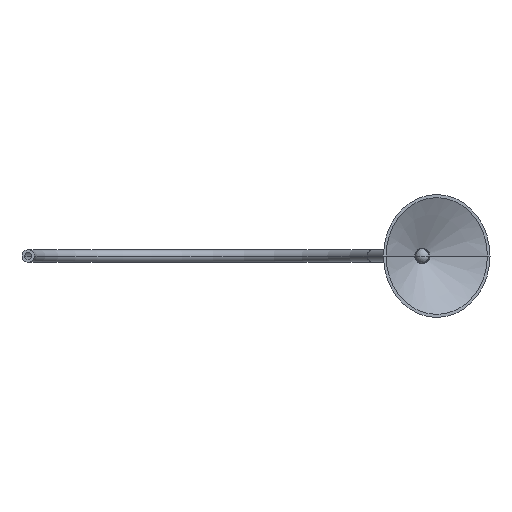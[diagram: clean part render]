
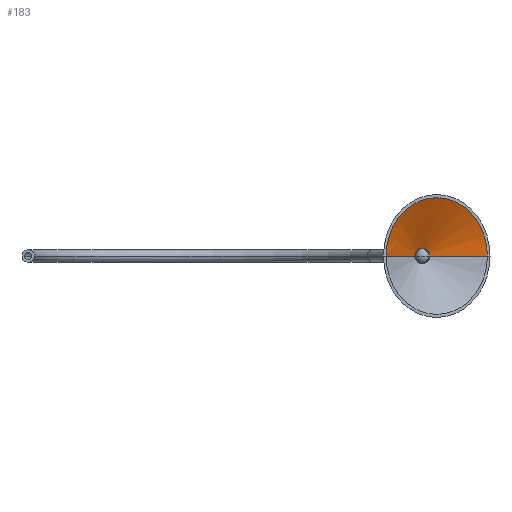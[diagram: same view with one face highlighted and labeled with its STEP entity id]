
A CAD part, front view. The second image highlights one B-rep face of the part: STEP entity #183.
In plain terms, the highlighted conical face has half-angle 60.255 degrees and reference radius 21.567 mm.
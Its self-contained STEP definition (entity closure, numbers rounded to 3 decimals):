
#47=CARTESIAN_POINT('',(265.673,1032.687,0.));
#48=DIRECTION('',(0.5,-0.866,0.));
#49=DIRECTION('',(0.866,0.5,0.));
#50=AXIS2_PLACEMENT_3D('',#47,#48,#49);
#57=CARTESIAN_POINT('',(256.292,1048.936,0.));
#58=DIRECTION('',(0.5,-0.866,0.));
#59=DIRECTION('',(0.866,0.5,0.));
#60=AXIS2_PLACEMENT_3D('',#57,#58,#59);
#67=DIRECTION('',(1.,0.004,0.));
#68=VECTOR('',#67,37.817);
#69=CARTESIAN_POINT('',(260.752,1051.511,0.));
#70=LINE('',#69,#68);
#71=DIRECTION('',(0.504,0.864,0.));
#72=VECTOR('',#71,37.817);
#73=CARTESIAN_POINT('',(232.778,1013.695,0.));
#74=LINE('',#73,#72);
#79=CARTESIAN_POINT('',(298.569,1051.679,0.));
#80=CARTESIAN_POINT('',(232.778,1013.695,0.));
#81=VERTEX_POINT('',#79);
#82=VERTEX_POINT('',#80);
#83=CARTESIAN_POINT('',(260.752,1051.511,0.));
#84=CARTESIAN_POINT('',(251.832,1046.361,0.));
#85=VERTEX_POINT('',#83);
#86=VERTEX_POINT('',#84);
#169=CARTESIAN_POINT('',(260.982,1040.811,0.));
#170=DIRECTION('',(0.5,-0.866,0.));
#171=DIRECTION('',(-0.866,-0.5,0.));
#172=AXIS2_PLACEMENT_3D('',#169,#170,#171);
#173=CONICAL_SURFACE('',#172,21.567,60.255);
#175=ORIENTED_EDGE('',*,*,#174,.T.);
#177=ORIENTED_EDGE('',*,*,#176,.F.);
#178=ORIENTED_EDGE('',*,*,#162,.F.);
#180=ORIENTED_EDGE('',*,*,#179,.F.);
#181=EDGE_LOOP('',(#175,#177,#178,#180));
#182=FACE_OUTER_BOUND('',#181,.F.);
#183=ADVANCED_FACE('',(#182),#173,.F.);
#51=CIRCLE('',#50,37.984);
#61=CIRCLE('',#60,5.15);
#162=EDGE_CURVE('',#81,#82,#51,.T.);
#174=EDGE_CURVE('',#85,#86,#61,.T.);
#176=EDGE_CURVE('',#82,#86,#74,.T.);
#179=EDGE_CURVE('',#85,#81,#70,.T.);
